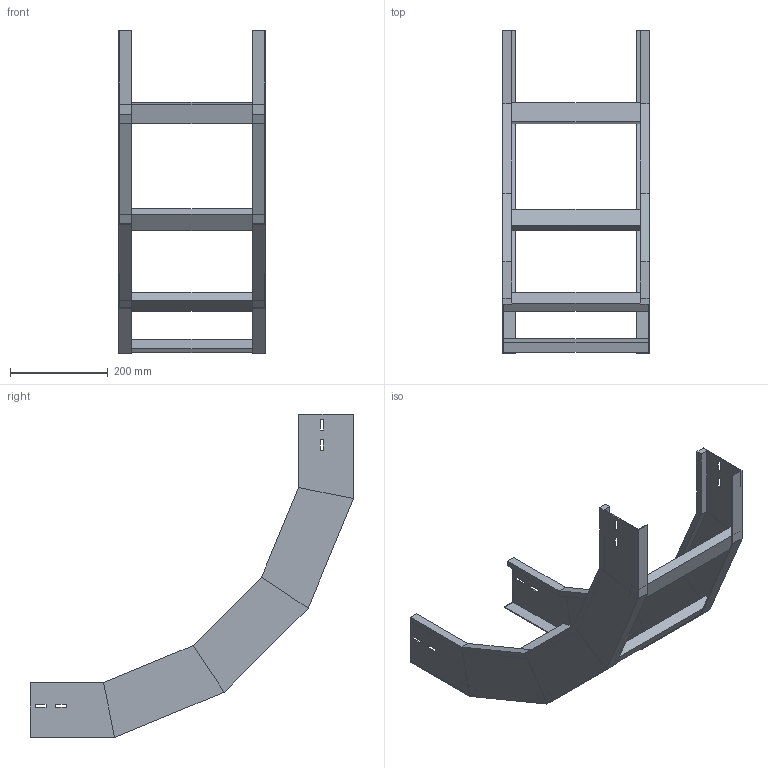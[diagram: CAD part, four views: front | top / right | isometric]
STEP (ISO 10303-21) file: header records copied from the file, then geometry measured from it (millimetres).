
FILE_DESCRIPTION (( 'STEP AP214' ), '1' );
FILE_NAME ('A2X30B5J300XX.step', '2025-03-20T10:21:59', ( '' ), ( '' ), 'SwSTEP 2.0', 'SolidWorks 2023', '' );
FILE_SCHEMA (( 'AUTOMOTIVE_DESIGN' ));
Length unit declared in the file: millimetre
Products named in the file (3): TRAVERSINO_300; LONGH.SALITA_90°_H112.5_R500; A2X30B5J300XX
Assembly tree (6 placements, depth 2):
  A2X30B5J300XX
    LONGH.SALITA_90°_H112.5_R500  x2
    TRAVERSINO_300  x4
Bounding box: 300 x 661.62 x 661.62 mm (x, y, z)
Volume: 1853708.4 mm3; surface area: 765791.7 mm2
Topology: 6 solids, 6 shells, 140 faces, 320 edges, 192 vertices
Faces by surface type: plane 140
Entity records: 1872 total; most frequent: CARTESIAN_POINT 309, ORIENTED_EDGE 296, DIRECTION 294, LINE 148, EDGE_CURVE 148, VECTOR 148, VERTEX_POINT 88, AXIS2_PLACEMENT_3D 73
